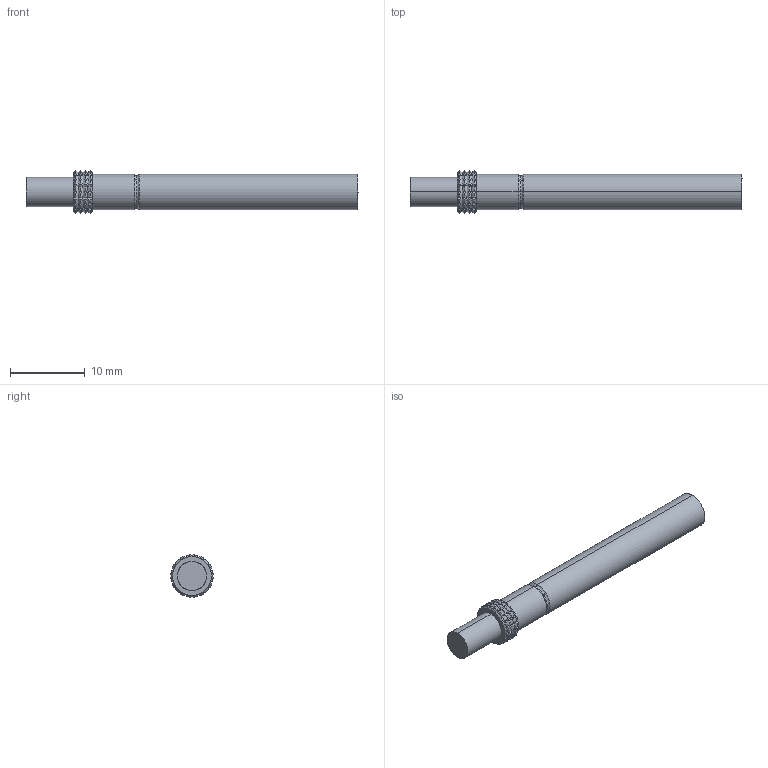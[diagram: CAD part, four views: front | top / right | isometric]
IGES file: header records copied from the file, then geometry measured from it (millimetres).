
Start section: SolidWorks IGES file using analytic representation for surfaces
Global section: file name: O:\PYLON\IGES FILES\P4301\P4301-2F FULL.IGS; native system: SolidWorks 2015; preprocessor: SolidWorks 2015; author: kgolden; date: 171020.124337; units: inch
Bounding box: 44.45 x 5.7 x 5.7 mm (x, y, z)
Surface area: 1255.5 mm2 (no closed solid volume)
Topology: 0 solids, 0 shells, 370 faces, 1997 edges, 1997 vertices
Faces by surface type: revolution 193, bspline 177
